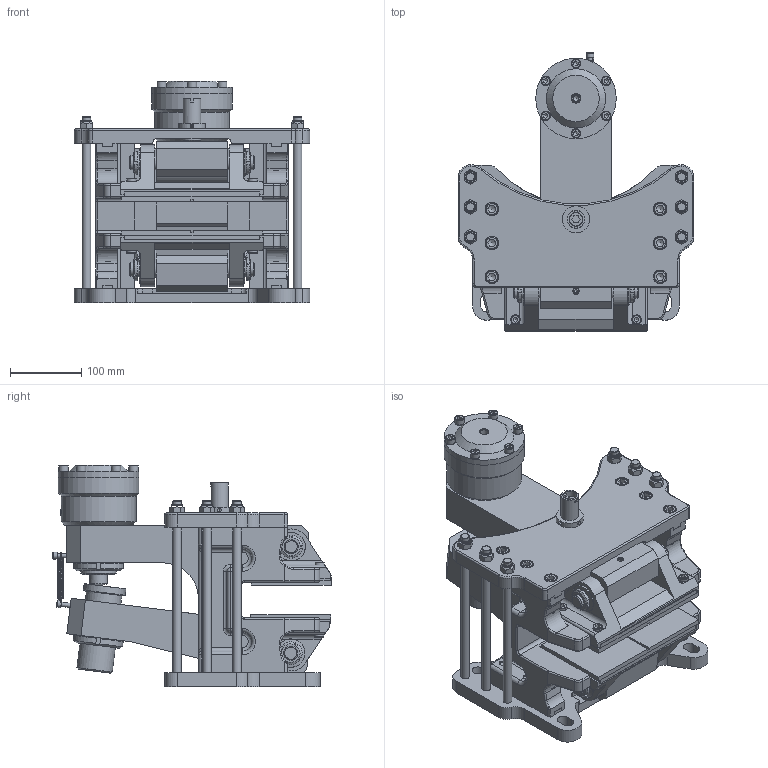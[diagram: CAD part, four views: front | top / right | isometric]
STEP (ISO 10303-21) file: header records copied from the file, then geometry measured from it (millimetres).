
FILE_DESCRIPTION(/* description */ ('','CAx-IF Rec.Pracs.---Representation and Presentation of Product Manufacturing Information (PMI)---4.0---2014-10-13'),/* implementation_level */ '2;1');
FILE_NAME(/* name */ 'X:\INVENTOR\DISEGNI\19_Pinze\STEP x Sito\OLEO-POSITIVE\19_26_700_06 POTP700_40.stp',/* time_stamp */ '2018-10-30T08:36:23+01:00',/* author */ ('stefano'),/* organization */ (''),/* preprocessor_version */ 'ST-DEVELOPER v17',/* originating_system */ 'Autodesk Inventor 2018',/* authorisation */ '');
FILE_SCHEMA (('AP242_MANAGED_MODEL_BASED_3D_ENGINEERING_MIM_LF { 1 0 10303 442 1 1 4 }'));
Products named in the file (1): 19_26_700_06 POTP700_40_Substitute_2
Bounding box: 330.02 x 390 x 311.1 mm (x, y, z)
Volume: 10197440.6 mm3; surface area: 1019823 mm2
Topology: 1 solids, 1 shells, 1486 faces, 4021 edges, 2623 vertices
Faces by surface type: plane 759, cylinder 396, cone 169, torus 126, bspline 24, sphere 12
Full cylindrical faces by diameter (mm): 1.2 x2, 3 x1, 5.188 x1, 5.25 x4, 6 x2, 6.647 x2, 8 x7, 8.376 x1, 8.5 x8, 8.917 x1, 9.188 x1, 10 x2, 10.106 x18, 11.445 x1, 12 x25, 12.5 x18, 13 x20, 13.5 x8, 14 x1, 15.3 x6, 17 x2, 18 x14, 19 x12, 19.5 x1, 20 x12, 22 x6, 25 x7, 28 x1, 33.6 x1, 38 x1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
Entity records: 54801 total; most frequent: CARTESIAN_POINT 16436, ORIENTED_EDGE 7952, DIRECTION 7854, EDGE_CURVE 3976, AXIS2_PLACEMENT_3D 2985, VERTEX_POINT 2623, LINE 1884, VECTOR 1884
